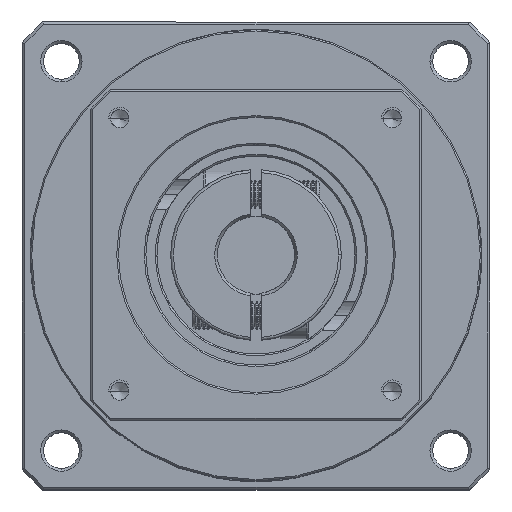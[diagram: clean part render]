
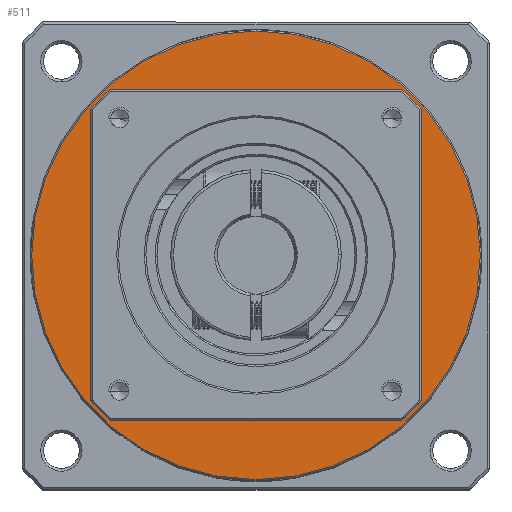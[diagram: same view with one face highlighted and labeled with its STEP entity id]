
A CAD part, top view. The second image highlights one B-rep face of the part: STEP entity #511.
In plain terms, the highlighted planar face has unit normal (0, 0, 1).
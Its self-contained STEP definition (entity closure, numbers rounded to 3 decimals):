
#511 = ADVANCED_FACE ( 'NONE', ( #67440, #45390 ), #28444, .T. ) ;
#1870 = DIRECTION ( 'NONE',  ( 0., 0., -1. ) ) ;
#10087 = AXIS2_PLACEMENT_3D ( 'NONE', #52089, #1870, #60392 ) ;
#11117 = AXIS2_PLACEMENT_3D ( 'NONE', #71242, #21306, #79603 ) ;
#11462 = AXIS2_PLACEMENT_3D ( 'NONE', #25561, #25541, #25417 ) ;
#11671 = DIRECTION ( 'NONE',  ( 0., 0., -1. ) ) ;
#14971 = EDGE_LOOP ( 'NONE', ( #15696, #28923 ) ) ;
#15696 = ORIENTED_EDGE ( 'NONE', *, *, #107705, .T. ) ;
#17151 = CARTESIAN_POINT ( 'NONE',  ( -21.377, 18.452, -15.806 ) ) ;
#18479 = CIRCLE ( 'NONE', #10087, 30. ) ;
#19784 = DIRECTION ( 'NONE',  ( 0., 0., -1. ) ) ;
#21306 = DIRECTION ( 'NONE',  ( 0., 0., -1. ) ) ;
#25417 = DIRECTION ( 'NONE',  ( 1., 0., 0. ) ) ;
#25541 = DIRECTION ( 'NONE',  ( 0., 0., 1. ) ) ;
#25561 = CARTESIAN_POINT ( 'NONE',  ( -62.127, 18.452, -15.806 ) ) ;
#26260 = VERTEX_POINT ( 'NONE', #42457 ) ;
#26663 = AXIS2_PLACEMENT_3D ( 'NONE', #61697, #11671, #70110 ) ;
#28444 = PLANE ( 'NONE',  #11462 ) ;
#28923 = ORIENTED_EDGE ( 'NONE', *, *, #82853, .T. ) ;
#32378 = EDGE_CURVE ( 'NONE', #75698, #26260, #92306, .T. ) ;
#36580 = ORIENTED_EDGE ( 'NONE', *, *, #48751, .F. ) ;
#42457 = CARTESIAN_POINT ( 'NONE',  ( -102.877, 18.452, -15.806 ) ) ;
#45390 = FACE_BOUND ( 'NONE', #14971, .T. ) ;
#48751 = EDGE_CURVE ( 'NONE', #26260, #75698, #51102, .T. ) ;
#51102 = CIRCLE ( 'NONE', #11117, 40.75 ) ;
#52089 = CARTESIAN_POINT ( 'NONE',  ( -62.127, 18.452, -15.806 ) ) ;
#56207 = VERTEX_POINT ( 'NONE', #69440 ) ;
#60392 = DIRECTION ( 'NONE',  ( -1., 0., 0. ) ) ;
#61697 = CARTESIAN_POINT ( 'NONE',  ( -62.127, 18.452, -15.806 ) ) ;
#64525 = EDGE_LOOP ( 'NONE', ( #36580, #96710 ) ) ;
#67440 = FACE_OUTER_BOUND ( 'NONE', #64525, .T. ) ;
#69440 = CARTESIAN_POINT ( 'NONE',  ( -92.127, 18.452, -15.806 ) ) ;
#69755 = CARTESIAN_POINT ( 'NONE',  ( -62.127, 18.452, -15.806 ) ) ;
#70110 = DIRECTION ( 'NONE',  ( -1., 0., 0. ) ) ;
#71242 = CARTESIAN_POINT ( 'NONE',  ( -62.127, 18.452, -15.806 ) ) ;
#75415 = CIRCLE ( 'NONE', #26663, 30. ) ;
#75698 = VERTEX_POINT ( 'NONE', #17151 ) ;
#78142 = DIRECTION ( 'NONE',  ( -1., 0., 0. ) ) ;
#79603 = DIRECTION ( 'NONE',  ( -1., 0., 0. ) ) ;
#82853 = EDGE_CURVE ( 'NONE', #85238, #56207, #75415, .T. ) ;
#85238 = VERTEX_POINT ( 'NONE', #91260 ) ;
#91260 = CARTESIAN_POINT ( 'NONE',  ( -32.127, 18.452, -15.806 ) ) ;
#92306 = CIRCLE ( 'NONE', #103582, 40.75 ) ;
#96710 = ORIENTED_EDGE ( 'NONE', *, *, #32378, .F. ) ;
#103582 = AXIS2_PLACEMENT_3D ( 'NONE', #69755, #19784, #78142 ) ;
#107705 = EDGE_CURVE ( 'NONE', #56207, #85238, #18479, .T. ) ;
